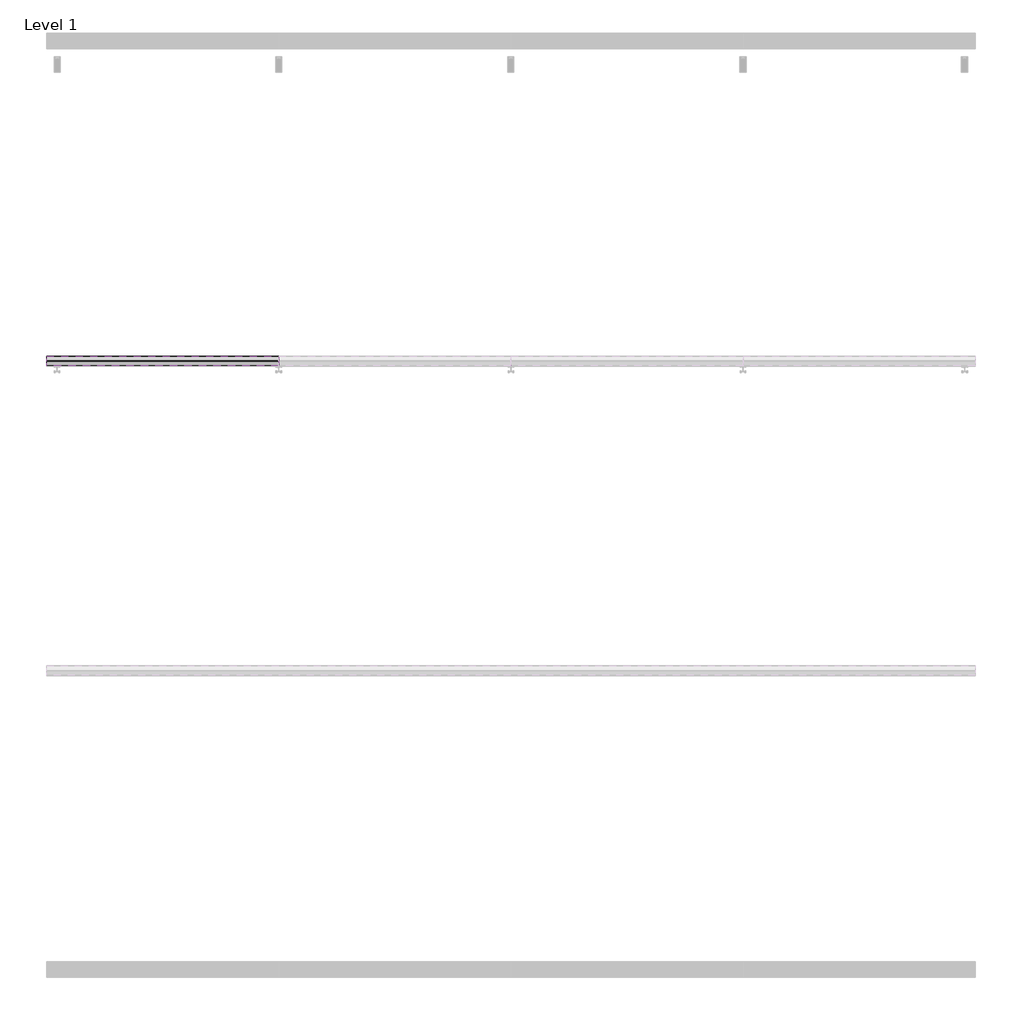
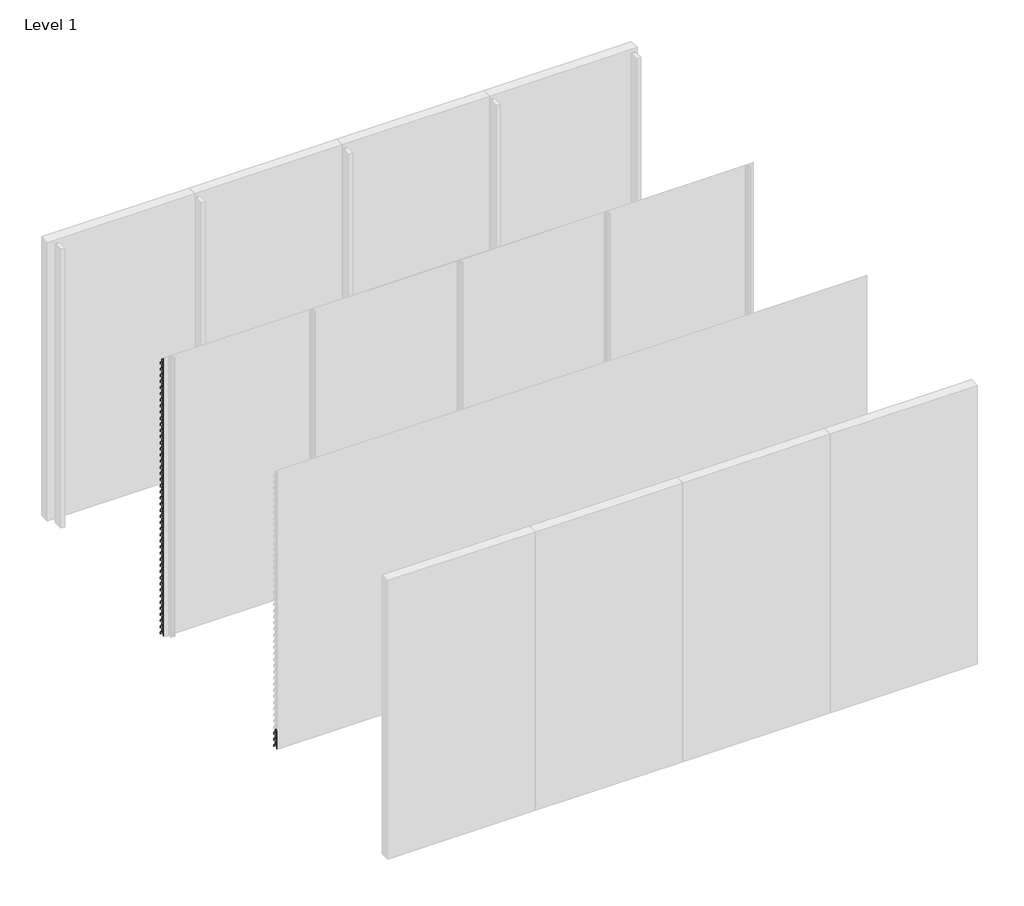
# One storey, part 10 of 35: 69 proxies.
"""IFC4 building model written with IfcOpenShell, lengths in millimetres."""

from ifc_helpers import new_model, si_unit, frame, origin, place, context, project, spatial, polyline, outline, extrude, element, save

model = new_model("IFC4")

# Units and contexts
model_context = context("Model", 3, world=origin())
ifc_project = project(units=[si_unit("LENGTHUNIT", "METRE", prefix="MILLI")], contexts=[model_context])

# Site, building, storey
site = spatial("IfcSite", under=ifc_project)
building = spatial("IfcBuilding", under=site)
storey = spatial("IfcBuildingStorey", under=building, Name="Level 1", Elevation=0.0)

# Proxies
placement = place(None, origin())
element("IfcBuildingElementProxy", 1, Name="Wall Sweeps", at=placement, inside=storey, context=model_context, shape_type="SweptSolid", body=[
    extrude(outline(polyline([(-41936.0, 2916.0), (-41936.0, 2896.0), (-41937.25, 2896.0), (-41937.25, 2915.4342979), (-41968.1138939, 2948.531772), (-41996.7, 2928.4392868), (-41996.7, 2909.6629874), (-41998.0, 2908.8506572), (-41998.0, 2929.1145472), (-41968.537525, 2949.823011), (-41968.537525, 2970.0), (-41967.1772624, 2970.0), (-41967.1772624, 2949.4335207), (-41936.0, 2916.0)])), frame((0.0, 0.0, 0.0), z_axis=(1.0, 0.0, 0.0), x_axis=(0.0, 1.0, 0.0)), (0.0, 0.0, 1.0), 1500.0),
])
element("IfcBuildingElementProxy", 2, Name="Wall Sweeps", at=placement, inside=storey, context=model_context, shape_type="SweptSolid", body=[
    extrude(outline(polyline([(-41936.0, 2850.0), (-41936.0, 2830.0), (-41937.25, 2830.0), (-41937.25, 2849.4342979), (-41968.1138939, 2882.531772), (-41996.7, 2862.4392868), (-41996.7, 2843.6629874), (-41998.0, 2842.8506572), (-41998.0, 2863.1145472), (-41968.537525, 2883.823011), (-41968.537525, 2904.0), (-41967.1772624, 2904.0), (-41967.1772624, 2883.4335207), (-41936.0, 2850.0)])), frame((0.0, 0.0, 0.0), z_axis=(1.0, 0.0, 0.0), x_axis=(0.0, 1.0, 0.0)), (0.0, 0.0, 1.0), 1500.0),
])
element("IfcBuildingElementProxy", 3, Name="Wall Sweeps", at=placement, inside=storey, context=model_context, shape_type="SweptSolid", body=[
    extrude(outline(polyline([(-41936.0, 2784.0), (-41936.0, 2764.0), (-41937.25, 2764.0), (-41937.25, 2783.4342979), (-41968.1138939, 2816.531772), (-41996.7, 2796.4392868), (-41996.7, 2777.6629874), (-41998.0, 2776.8506572), (-41998.0, 2797.1145472), (-41968.537525, 2817.823011), (-41968.537525, 2838.0), (-41967.1772624, 2838.0), (-41967.1772624, 2817.4335207), (-41936.0, 2784.0)])), frame((0.0, 0.0, 0.0), z_axis=(1.0, 0.0, 0.0), x_axis=(0.0, 1.0, 0.0)), (0.0, 0.0, 1.0), 1500.0),
])
element("IfcBuildingElementProxy", 4, Name="Wall Sweeps", at=placement, inside=storey, context=model_context, shape_type="SweptSolid", body=[
    extrude(outline(polyline([(-41936.0, 2718.0), (-41936.0, 2698.0), (-41937.25, 2698.0), (-41937.25, 2717.4342979), (-41968.1138939, 2750.531772), (-41996.7, 2730.4392868), (-41996.7, 2711.6629874), (-41998.0, 2710.8506572), (-41998.0, 2731.1145472), (-41968.537525, 2751.823011), (-41968.537525, 2772.0), (-41967.1772624, 2772.0), (-41967.1772624, 2751.4335207), (-41936.0, 2718.0)])), frame((0.0, 0.0, 0.0), z_axis=(1.0, 0.0, 0.0), x_axis=(0.0, 1.0, 0.0)), (0.0, 0.0, 1.0), 1500.0),
])
element("IfcBuildingElementProxy", 5, Name="Wall Sweeps", at=placement, inside=storey, context=model_context, shape_type="SweptSolid", body=[
    extrude(outline(polyline([(-41936.0, 2652.0), (-41936.0, 2632.0), (-41937.25, 2632.0), (-41937.25, 2651.4342979), (-41968.1138939, 2684.531772), (-41996.7, 2664.4392868), (-41996.7, 2645.6629874), (-41998.0, 2644.8506572), (-41998.0, 2665.1145472), (-41968.537525, 2685.823011), (-41968.537525, 2706.0), (-41967.1772624, 2706.0), (-41967.1772624, 2685.4335207), (-41936.0, 2652.0)])), frame((0.0, 0.0, 0.0), z_axis=(1.0, 0.0, 0.0), x_axis=(0.0, 1.0, 0.0)), (0.0, 0.0, 1.0), 1500.0),
])
element("IfcBuildingElementProxy", 6, Name="Wall Sweeps", at=placement, inside=storey, context=model_context, shape_type="SweptSolid", body=[
    extrude(outline(polyline([(-41936.0, 2586.0), (-41936.0, 2566.0), (-41937.25, 2566.0), (-41937.25, 2585.4342979), (-41968.1138939, 2618.531772), (-41996.7, 2598.4392868), (-41996.7, 2579.6629874), (-41998.0, 2578.8506572), (-41998.0, 2599.1145472), (-41968.537525, 2619.823011), (-41968.537525, 2640.0), (-41967.1772624, 2640.0), (-41967.1772624, 2619.4335207), (-41936.0, 2586.0)])), frame((0.0, 0.0, 0.0), z_axis=(1.0, 0.0, 0.0), x_axis=(0.0, 1.0, 0.0)), (0.0, 0.0, 1.0), 1500.0),
])
element("IfcBuildingElementProxy", 7, Name="Wall Sweeps", at=placement, inside=storey, context=model_context, shape_type="SweptSolid", body=[
    extrude(outline(polyline([(-41936.0, 2520.0), (-41936.0, 2500.0), (-41937.25, 2500.0), (-41937.25, 2519.4342979), (-41968.1138939, 2552.531772), (-41996.7, 2532.4392868), (-41996.7, 2513.6629874), (-41998.0, 2512.8506572), (-41998.0, 2533.1145472), (-41968.537525, 2553.823011), (-41968.537525, 2574.0), (-41967.1772624, 2574.0), (-41967.1772624, 2553.4335207), (-41936.0, 2520.0)])), frame((0.0, 0.0, 0.0), z_axis=(1.0, 0.0, 0.0), x_axis=(0.0, 1.0, 0.0)), (0.0, 0.0, 1.0), 1500.0),
])
element("IfcBuildingElementProxy", 8, Name="Wall Sweeps", at=placement, inside=storey, context=model_context, shape_type="SweptSolid", body=[
    extrude(outline(polyline([(-41936.0, 2454.0), (-41936.0, 2434.0), (-41937.25, 2434.0), (-41937.25, 2453.4342979), (-41968.1138939, 2486.531772), (-41996.7, 2466.4392868), (-41996.7, 2447.6629874), (-41998.0, 2446.8506572), (-41998.0, 2467.1145472), (-41968.537525, 2487.823011), (-41968.537525, 2508.0), (-41967.1772624, 2508.0), (-41967.1772624, 2487.4335207), (-41936.0, 2454.0)])), frame((0.0, 0.0, 0.0), z_axis=(1.0, 0.0, 0.0), x_axis=(0.0, 1.0, 0.0)), (0.0, 0.0, 1.0), 1500.0),
])
element("IfcBuildingElementProxy", 9, Name="Wall Sweeps", at=placement, inside=storey, context=model_context, shape_type="SweptSolid", body=[
    extrude(outline(polyline([(-41936.0, 2388.0), (-41936.0, 2368.0), (-41937.25, 2368.0), (-41937.25, 2387.4342979), (-41968.1138939, 2420.531772), (-41996.7, 2400.4392868), (-41996.7, 2381.6629874), (-41998.0, 2380.8506572), (-41998.0, 2401.1145472), (-41968.537525, 2421.823011), (-41968.537525, 2442.0), (-41967.1772624, 2442.0), (-41967.1772624, 2421.4335207), (-41936.0, 2388.0)])), frame((0.0, 0.0, 0.0), z_axis=(1.0, 0.0, 0.0), x_axis=(0.0, 1.0, 0.0)), (0.0, 0.0, 1.0), 1500.0),
])
element("IfcBuildingElementProxy", 10, Name="Wall Sweeps", at=placement, inside=storey, context=model_context, shape_type="SweptSolid", body=[
    extrude(outline(polyline([(-41936.0, 2322.0), (-41936.0, 2302.0), (-41937.25, 2302.0), (-41937.25, 2321.4342979), (-41968.1138939, 2354.531772), (-41996.7, 2334.4392868), (-41996.7, 2315.6629874), (-41998.0, 2314.8506572), (-41998.0, 2335.1145472), (-41968.537525, 2355.823011), (-41968.537525, 2376.0), (-41967.1772624, 2376.0), (-41967.1772624, 2355.4335207), (-41936.0, 2322.0)])), frame((0.0, 0.0, 0.0), z_axis=(1.0, 0.0, 0.0), x_axis=(0.0, 1.0, 0.0)), (0.0, 0.0, 1.0), 1500.0),
])
element("IfcBuildingElementProxy", 11, Name="Wall Sweeps", at=placement, inside=storey, context=model_context, shape_type="SweptSolid", body=[
    extrude(outline(polyline([(-41936.0, 2256.0), (-41936.0, 2236.0), (-41937.25, 2236.0), (-41937.25, 2255.4342979), (-41968.1138939, 2288.531772), (-41996.7, 2268.4392868), (-41996.7, 2249.6629874), (-41998.0, 2248.8506572), (-41998.0, 2269.1145472), (-41968.537525, 2289.823011), (-41968.537525, 2310.0), (-41967.1772624, 2310.0), (-41967.1772624, 2289.4335207), (-41936.0, 2256.0)])), frame((0.0, 0.0, 0.0), z_axis=(1.0, 0.0, 0.0), x_axis=(0.0, 1.0, 0.0)), (0.0, 0.0, 1.0), 1500.0),
])
element("IfcBuildingElementProxy", 12, Name="Wall Sweeps", at=placement, inside=storey, context=model_context, shape_type="SweptSolid", body=[
    extrude(outline(polyline([(-41936.0, 2190.0), (-41936.0, 2170.0), (-41937.25, 2170.0), (-41937.25, 2189.4342979), (-41968.1138939, 2222.531772), (-41996.7, 2202.4392868), (-41996.7, 2183.6629874), (-41998.0, 2182.8506572), (-41998.0, 2203.1145472), (-41968.537525, 2223.823011), (-41968.537525, 2244.0), (-41967.1772624, 2244.0), (-41967.1772624, 2223.4335207), (-41936.0, 2190.0)])), frame((0.0, 0.0, 0.0), z_axis=(1.0, 0.0, 0.0), x_axis=(0.0, 1.0, 0.0)), (0.0, 0.0, 1.0), 1500.0),
])
element("IfcBuildingElementProxy", 13, Name="Wall Sweeps", at=placement, inside=storey, context=model_context, shape_type="SweptSolid", body=[
    extrude(outline(polyline([(-41936.0, 2124.0), (-41936.0, 2104.0), (-41937.25, 2104.0), (-41937.25, 2123.4342979), (-41968.1138939, 2156.531772), (-41996.7, 2136.4392868), (-41996.7, 2117.6629874), (-41998.0, 2116.8506572), (-41998.0, 2137.1145472), (-41968.537525, 2157.823011), (-41968.537525, 2178.0), (-41967.1772624, 2178.0), (-41967.1772624, 2157.4335207), (-41936.0, 2124.0)])), frame((0.0, 0.0, 0.0), z_axis=(1.0, 0.0, 0.0), x_axis=(0.0, 1.0, 0.0)), (0.0, 0.0, 1.0), 1500.0),
])
element("IfcBuildingElementProxy", 14, Name="Wall Sweeps", at=placement, inside=storey, context=model_context, shape_type="SweptSolid", body=[
    extrude(outline(polyline([(-41936.0, 2058.0), (-41936.0, 2038.0), (-41937.25, 2038.0), (-41937.25, 2057.4342979), (-41968.1138939, 2090.531772), (-41996.7, 2070.4392868), (-41996.7, 2051.6629874), (-41998.0, 2050.8506572), (-41998.0, 2071.1145472), (-41968.537525, 2091.823011), (-41968.537525, 2112.0), (-41967.1772624, 2112.0), (-41967.1772624, 2091.4335207), (-41936.0, 2058.0)])), frame((0.0, 0.0, 0.0), z_axis=(1.0, 0.0, 0.0), x_axis=(0.0, 1.0, 0.0)), (0.0, 0.0, 1.0), 1500.0),
])
element("IfcBuildingElementProxy", 15, Name="Wall Sweeps", at=placement, inside=storey, context=model_context, shape_type="SweptSolid", body=[
    extrude(outline(polyline([(-41936.0, 1992.0), (-41936.0, 1972.0), (-41937.25, 1972.0), (-41937.25, 1991.4342979), (-41968.1138939, 2024.531772), (-41996.7, 2004.4392868), (-41996.7, 1985.6629874), (-41998.0, 1984.8506572), (-41998.0, 2005.1145472), (-41968.537525, 2025.823011), (-41968.537525, 2046.0), (-41967.1772624, 2046.0), (-41967.1772624, 2025.4335207), (-41936.0, 1992.0)])), frame((0.0, 0.0, 0.0), z_axis=(1.0, 0.0, 0.0), x_axis=(0.0, 1.0, 0.0)), (0.0, 0.0, 1.0), 1500.0),
])
element("IfcBuildingElementProxy", 16, Name="Wall Sweeps", at=placement, inside=storey, context=model_context, shape_type="SweptSolid", body=[
    extrude(outline(polyline([(-41936.0, 1926.0), (-41936.0, 1906.0), (-41937.25, 1906.0), (-41937.25, 1925.4342979), (-41968.1138939, 1958.531772), (-41996.7, 1938.4392868), (-41996.7, 1919.6629874), (-41998.0, 1918.8506572), (-41998.0, 1939.1145472), (-41968.537525, 1959.823011), (-41968.537525, 1980.0), (-41967.1772624, 1980.0), (-41967.1772624, 1959.4335207), (-41936.0, 1926.0)])), frame((0.0, 0.0, 0.0), z_axis=(1.0, 0.0, 0.0), x_axis=(0.0, 1.0, 0.0)), (0.0, 0.0, 1.0), 1500.0),
])
element("IfcBuildingElementProxy", 17, Name="Wall Sweeps", at=placement, inside=storey, context=model_context, shape_type="SweptSolid", body=[
    extrude(outline(polyline([(-41936.0, 1860.0), (-41936.0, 1840.0), (-41937.25, 1840.0), (-41937.25, 1859.4342979), (-41968.1138939, 1892.531772), (-41996.7, 1872.4392868), (-41996.7, 1853.6629874), (-41998.0, 1852.8506572), (-41998.0, 1873.1145472), (-41968.537525, 1893.823011), (-41968.537525, 1914.0), (-41967.1772624, 1914.0), (-41967.1772624, 1893.4335207), (-41936.0, 1860.0)])), frame((0.0, 0.0, 0.0), z_axis=(1.0, 0.0, 0.0), x_axis=(0.0, 1.0, 0.0)), (0.0, 0.0, 1.0), 1500.0),
])
element("IfcBuildingElementProxy", 18, Name="Wall Sweeps", at=placement, inside=storey, context=model_context, shape_type="SweptSolid", body=[
    extrude(outline(polyline([(-41936.0, 1794.0), (-41936.0, 1774.0), (-41937.25, 1774.0), (-41937.25, 1793.4342979), (-41968.1138939, 1826.531772), (-41996.7, 1806.4392868), (-41996.7, 1787.6629874), (-41998.0, 1786.8506572), (-41998.0, 1807.1145472), (-41968.537525, 1827.823011), (-41968.537525, 1848.0), (-41967.1772624, 1848.0), (-41967.1772624, 1827.4335207), (-41936.0, 1794.0)])), frame((0.0, 0.0, 0.0), z_axis=(1.0, 0.0, 0.0), x_axis=(0.0, 1.0, 0.0)), (0.0, 0.0, 1.0), 1500.0),
])
element("IfcBuildingElementProxy", 19, Name="Wall Sweeps", at=placement, inside=storey, context=model_context, shape_type="SweptSolid", body=[
    extrude(outline(polyline([(-41936.0, 1728.0), (-41936.0, 1708.0), (-41937.25, 1708.0), (-41937.25, 1727.4342979), (-41968.1138939, 1760.531772), (-41996.7, 1740.4392868), (-41996.7, 1721.6629874), (-41998.0, 1720.8506572), (-41998.0, 1741.1145472), (-41968.537525, 1761.823011), (-41968.537525, 1782.0), (-41967.1772624, 1782.0), (-41967.1772624, 1761.4335207), (-41936.0, 1728.0)])), frame((0.0, 0.0, 0.0), z_axis=(1.0, 0.0, 0.0), x_axis=(0.0, 1.0, 0.0)), (0.0, 0.0, 1.0), 1500.0),
])
element("IfcBuildingElementProxy", 20, Name="Wall Sweeps", at=placement, inside=storey, context=model_context, shape_type="SweptSolid", body=[
    extrude(outline(polyline([(-41936.0, 1662.0), (-41936.0, 1642.0), (-41937.25, 1642.0), (-41937.25, 1661.4342979), (-41968.1138939, 1694.531772), (-41996.7, 1674.4392868), (-41996.7, 1655.6629874), (-41998.0, 1654.8506572), (-41998.0, 1675.1145472), (-41968.537525, 1695.823011), (-41968.537525, 1716.0), (-41967.1772624, 1716.0), (-41967.1772624, 1695.4335207), (-41936.0, 1662.0)])), frame((0.0, 0.0, 0.0), z_axis=(1.0, 0.0, 0.0), x_axis=(0.0, 1.0, 0.0)), (0.0, 0.0, 1.0), 1500.0),
])
element("IfcBuildingElementProxy", 21, Name="Wall Sweeps", at=placement, inside=storey, context=model_context, shape_type="SweptSolid", body=[
    extrude(outline(polyline([(-41936.0, 1596.0), (-41936.0, 1576.0), (-41937.25, 1576.0), (-41937.25, 1595.4342979), (-41968.1138939, 1628.531772), (-41996.7, 1608.4392868), (-41996.7, 1589.6629874), (-41998.0, 1588.8506572), (-41998.0, 1609.1145472), (-41968.537525, 1629.823011), (-41968.537525, 1650.0), (-41967.1772624, 1650.0), (-41967.1772624, 1629.4335207), (-41936.0, 1596.0)])), frame((0.0, 0.0, 0.0), z_axis=(1.0, 0.0, 0.0), x_axis=(0.0, 1.0, 0.0)), (0.0, 0.0, 1.0), 1500.0),
])
element("IfcBuildingElementProxy", 22, Name="Wall Sweeps", at=placement, inside=storey, context=model_context, shape_type="SweptSolid", body=[
    extrude(outline(polyline([(-41936.0, 1530.0), (-41936.0, 1510.0), (-41937.25, 1510.0), (-41937.25, 1529.4342979), (-41968.1138939, 1562.531772), (-41996.7, 1542.4392868), (-41996.7, 1523.6629874), (-41998.0, 1522.8506572), (-41998.0, 1543.1145472), (-41968.537525, 1563.823011), (-41968.537525, 1584.0), (-41967.1772624, 1584.0), (-41967.1772624, 1563.4335207), (-41936.0, 1530.0)])), frame((0.0, 0.0, 0.0), z_axis=(1.0, 0.0, 0.0), x_axis=(0.0, 1.0, 0.0)), (0.0, 0.0, 1.0), 1500.0),
])
element("IfcBuildingElementProxy", 23, Name="Wall Sweeps", at=placement, inside=storey, context=model_context, shape_type="SweptSolid", body=[
    extrude(outline(polyline([(-41936.0, 1464.0), (-41936.0, 1444.0), (-41937.25, 1444.0), (-41937.25, 1463.4342979), (-41968.1138939, 1496.531772), (-41996.7, 1476.4392868), (-41996.7, 1457.6629874), (-41998.0, 1456.8506572), (-41998.0, 1477.1145472), (-41968.537525, 1497.823011), (-41968.537525, 1518.0), (-41967.1772624, 1518.0), (-41967.1772624, 1497.4335207), (-41936.0, 1464.0)])), frame((0.0, 0.0, 0.0), z_axis=(1.0, 0.0, 0.0), x_axis=(0.0, 1.0, 0.0)), (0.0, 0.0, 1.0), 1500.0),
])
element("IfcBuildingElementProxy", 24, Name="Wall Sweeps", at=placement, inside=storey, context=model_context, shape_type="SweptSolid", body=[
    extrude(outline(polyline([(-41936.0, 1398.0), (-41936.0, 1378.0), (-41937.25, 1378.0), (-41937.25, 1397.4342979), (-41968.1138939, 1430.531772), (-41996.7, 1410.4392868), (-41996.7, 1391.6629874), (-41998.0, 1390.8506572), (-41998.0, 1411.1145472), (-41968.537525, 1431.823011), (-41968.537525, 1452.0), (-41967.1772624, 1452.0), (-41967.1772624, 1431.4335207), (-41936.0, 1398.0)])), frame((0.0, 0.0, 0.0), z_axis=(1.0, 0.0, 0.0), x_axis=(0.0, 1.0, 0.0)), (0.0, 0.0, 1.0), 1500.0),
])
element("IfcBuildingElementProxy", 25, Name="Wall Sweeps", at=placement, inside=storey, context=model_context, shape_type="SweptSolid", body=[
    extrude(outline(polyline([(-41936.0, 1332.0), (-41936.0, 1312.0), (-41937.25, 1312.0), (-41937.25, 1331.4342979), (-41968.1138939, 1364.531772), (-41996.7, 1344.4392868), (-41996.7, 1325.6629874), (-41998.0, 1324.8506572), (-41998.0, 1345.1145472), (-41968.537525, 1365.823011), (-41968.537525, 1386.0), (-41967.1772624, 1386.0), (-41967.1772624, 1365.4335207), (-41936.0, 1332.0)])), frame((0.0, 0.0, 0.0), z_axis=(1.0, 0.0, 0.0), x_axis=(0.0, 1.0, 0.0)), (0.0, 0.0, 1.0), 1500.0),
])
element("IfcBuildingElementProxy", 26, Name="Wall Sweeps", at=placement, inside=storey, context=model_context, shape_type="SweptSolid", body=[
    extrude(outline(polyline([(-41936.0, 1266.0), (-41936.0, 1246.0), (-41937.25, 1246.0), (-41937.25, 1265.4342979), (-41968.1138939, 1298.531772), (-41996.7, 1278.4392868), (-41996.7, 1259.6629874), (-41998.0, 1258.8506572), (-41998.0, 1279.1145472), (-41968.537525, 1299.823011), (-41968.537525, 1320.0), (-41967.1772624, 1320.0), (-41967.1772624, 1299.4335207), (-41936.0, 1266.0)])), frame((0.0, 0.0, 0.0), z_axis=(1.0, 0.0, 0.0), x_axis=(0.0, 1.0, 0.0)), (0.0, 0.0, 1.0), 1500.0),
])
element("IfcBuildingElementProxy", 27, Name="Wall Sweeps", at=placement, inside=storey, context=model_context, shape_type="SweptSolid", body=[
    extrude(outline(polyline([(-41936.0, 1200.0), (-41936.0, 1180.0), (-41937.25, 1180.0), (-41937.25, 1199.4342979), (-41968.1138939, 1232.531772), (-41996.7, 1212.4392868), (-41996.7, 1193.6629874), (-41998.0, 1192.8506572), (-41998.0, 1213.1145472), (-41968.537525, 1233.823011), (-41968.537525, 1254.0), (-41967.1772624, 1254.0), (-41967.1772624, 1233.4335207), (-41936.0, 1200.0)])), frame((0.0, 0.0, 0.0), z_axis=(1.0, 0.0, 0.0), x_axis=(0.0, 1.0, 0.0)), (0.0, 0.0, 1.0), 1500.0),
])
element("IfcBuildingElementProxy", 28, Name="Wall Sweeps", at=placement, inside=storey, context=model_context, shape_type="SweptSolid", body=[
    extrude(outline(polyline([(-41936.0, 1134.0), (-41936.0, 1114.0), (-41937.25, 1114.0), (-41937.25, 1133.4342979), (-41968.1138939, 1166.531772), (-41996.7, 1146.4392868), (-41996.7, 1127.6629874), (-41998.0, 1126.8506572), (-41998.0, 1147.1145472), (-41968.537525, 1167.823011), (-41968.537525, 1188.0), (-41967.1772624, 1188.0), (-41967.1772624, 1167.4335207), (-41936.0, 1134.0)])), frame((0.0, 0.0, 0.0), z_axis=(1.0, 0.0, 0.0), x_axis=(0.0, 1.0, 0.0)), (0.0, 0.0, 1.0), 1500.0),
])
element("IfcBuildingElementProxy", 29, Name="Wall Sweeps", at=placement, inside=storey, context=model_context, shape_type="SweptSolid", body=[
    extrude(outline(polyline([(-41936.0, 1068.0), (-41936.0, 1048.0), (-41937.25, 1048.0), (-41937.25, 1067.4342979), (-41968.1138939, 1100.531772), (-41996.7, 1080.4392868), (-41996.7, 1061.6629874), (-41998.0, 1060.8506572), (-41998.0, 1081.1145472), (-41968.537525, 1101.823011), (-41968.537525, 1122.0), (-41967.1772624, 1122.0), (-41967.1772624, 1101.4335207), (-41936.0, 1068.0)])), frame((0.0, 0.0, 0.0), z_axis=(1.0, 0.0, 0.0), x_axis=(0.0, 1.0, 0.0)), (0.0, 0.0, 1.0), 1500.0),
])
element("IfcBuildingElementProxy", 30, Name="Wall Sweeps", at=placement, inside=storey, context=model_context, shape_type="SweptSolid", body=[
    extrude(outline(polyline([(-41936.0, 1002.0), (-41936.0, 982.0), (-41937.25, 982.0), (-41937.25, 1001.4342979), (-41968.1138939, 1034.531772), (-41996.7, 1014.4392868), (-41996.7, 995.6629874), (-41998.0, 994.8506572), (-41998.0, 1015.1145472), (-41968.537525, 1035.823011), (-41968.537525, 1056.0), (-41967.1772624, 1056.0), (-41967.1772624, 1035.4335207), (-41936.0, 1002.0)])), frame((0.0, 0.0, 0.0), z_axis=(1.0, 0.0, 0.0), x_axis=(0.0, 1.0, 0.0)), (0.0, 0.0, 1.0), 1500.0),
])
element("IfcBuildingElementProxy", 31, Name="Wall Sweeps", at=placement, inside=storey, context=model_context, shape_type="SweptSolid", body=[
    extrude(outline(polyline([(-41936.0, 936.0), (-41936.0, 916.0), (-41937.25, 916.0), (-41937.25, 935.4342979), (-41968.1138939, 968.531772), (-41996.7, 948.4392868), (-41996.7, 929.6629874), (-41998.0, 928.8506572), (-41998.0, 949.1145472), (-41968.537525, 969.823011), (-41968.537525, 990.0), (-41967.1772624, 990.0), (-41967.1772624, 969.4335207), (-41936.0, 936.0)])), frame((0.0, 0.0, 0.0), z_axis=(1.0, 0.0, 0.0), x_axis=(0.0, 1.0, 0.0)), (0.0, 0.0, 1.0), 1500.0),
])
element("IfcBuildingElementProxy", 32, Name="Wall Sweeps", at=placement, inside=storey, context=model_context, shape_type="SweptSolid", body=[
    extrude(outline(polyline([(-41936.0, 870.0), (-41936.0, 850.0), (-41937.25, 850.0), (-41937.25, 869.4342979), (-41968.1138939, 902.531772), (-41996.7, 882.4392868), (-41996.7, 863.6629874), (-41998.0, 862.8506572), (-41998.0, 883.1145472), (-41968.537525, 903.823011), (-41968.537525, 924.0), (-41967.1772624, 924.0), (-41967.1772624, 903.4335207), (-41936.0, 870.0)])), frame((0.0, 0.0, 0.0), z_axis=(1.0, 0.0, 0.0), x_axis=(0.0, 1.0, 0.0)), (0.0, 0.0, 1.0), 1500.0),
])
element("IfcBuildingElementProxy", 33, Name="Wall Sweeps", at=placement, inside=storey, context=model_context, shape_type="SweptSolid", body=[
    extrude(outline(polyline([(-41936.0, 804.0), (-41936.0, 784.0), (-41937.25, 784.0), (-41937.25, 803.4342979), (-41968.1138939, 836.531772), (-41996.7, 816.4392868), (-41996.7, 797.6629874), (-41998.0, 796.8506572), (-41998.0, 817.1145472), (-41968.537525, 837.823011), (-41968.537525, 858.0), (-41967.1772624, 858.0), (-41967.1772624, 837.4335207), (-41936.0, 804.0)])), frame((0.0, 0.0, 0.0), z_axis=(1.0, 0.0, 0.0), x_axis=(0.0, 1.0, 0.0)), (0.0, 0.0, 1.0), 1500.0),
])
element("IfcBuildingElementProxy", 34, Name="Wall Sweeps", at=placement, inside=storey, context=model_context, shape_type="SweptSolid", body=[
    extrude(outline(polyline([(-41936.0, 738.0), (-41936.0, 718.0), (-41937.25, 718.0), (-41937.25, 737.4342979), (-41968.1138939, 770.531772), (-41996.7, 750.4392868), (-41996.7, 731.6629874), (-41998.0, 730.8506572), (-41998.0, 751.1145472), (-41968.537525, 771.823011), (-41968.537525, 792.0), (-41967.1772624, 792.0), (-41967.1772624, 771.4335207), (-41936.0, 738.0)])), frame((0.0, 0.0, 0.0), z_axis=(1.0, 0.0, 0.0), x_axis=(0.0, 1.0, 0.0)), (0.0, 0.0, 1.0), 1500.0),
])
element("IfcBuildingElementProxy", 35, Name="Wall Sweeps", at=placement, inside=storey, context=model_context, shape_type="SweptSolid", body=[
    extrude(outline(polyline([(-41936.0, 672.0), (-41936.0, 652.0), (-41937.25, 652.0), (-41937.25, 671.4342979), (-41968.1138939, 704.531772), (-41996.7, 684.4392868), (-41996.7, 665.6629874), (-41998.0, 664.8506572), (-41998.0, 685.1145472), (-41968.537525, 705.823011), (-41968.537525, 726.0), (-41967.1772624, 726.0), (-41967.1772624, 705.4335207), (-41936.0, 672.0)])), frame((0.0, 0.0, 0.0), z_axis=(1.0, 0.0, 0.0), x_axis=(0.0, 1.0, 0.0)), (0.0, 0.0, 1.0), 1500.0),
])
element("IfcBuildingElementProxy", 36, Name="Wall Sweeps", at=placement, inside=storey, context=model_context, shape_type="SweptSolid", body=[
    extrude(outline(polyline([(-41936.0, 606.0), (-41936.0, 586.0), (-41937.25, 586.0), (-41937.25, 605.4342979), (-41968.1138939, 638.531772), (-41996.7, 618.4392868), (-41996.7, 599.6629874), (-41998.0, 598.8506572), (-41998.0, 619.1145472), (-41968.537525, 639.823011), (-41968.537525, 660.0), (-41967.1772624, 660.0), (-41967.1772624, 639.4335207), (-41936.0, 606.0)])), frame((0.0, 0.0, 0.0), z_axis=(1.0, 0.0, 0.0), x_axis=(0.0, 1.0, 0.0)), (0.0, 0.0, 1.0), 1500.0),
])
element("IfcBuildingElementProxy", 37, Name="Wall Sweeps", at=placement, inside=storey, context=model_context, shape_type="SweptSolid", body=[
    extrude(outline(polyline([(-41936.0, 540.0), (-41936.0, 520.0), (-41937.25, 520.0), (-41937.25, 539.4342979), (-41968.1138939, 572.531772), (-41996.7, 552.4392868), (-41996.7, 533.6629874), (-41998.0, 532.8506572), (-41998.0, 553.1145472), (-41968.537525, 573.823011), (-41968.537525, 594.0), (-41967.1772624, 594.0), (-41967.1772624, 573.4335207), (-41936.0, 540.0)])), frame((0.0, 0.0, 0.0), z_axis=(1.0, 0.0, 0.0), x_axis=(0.0, 1.0, 0.0)), (0.0, 0.0, 1.0), 1500.0),
])
element("IfcBuildingElementProxy", 38, Name="Wall Sweeps", at=placement, inside=storey, context=model_context, shape_type="SweptSolid", body=[
    extrude(outline(polyline([(-41936.0, 474.0), (-41936.0, 454.0), (-41937.25, 454.0), (-41937.25, 473.4342979), (-41968.1138939, 506.531772), (-41996.7, 486.4392868), (-41996.7, 467.6629874), (-41998.0, 466.8506572), (-41998.0, 487.1145472), (-41968.537525, 507.823011), (-41968.537525, 528.0), (-41967.1772624, 528.0), (-41967.1772624, 507.4335207), (-41936.0, 474.0)])), frame((0.0, 0.0, 0.0), z_axis=(1.0, 0.0, 0.0), x_axis=(0.0, 1.0, 0.0)), (0.0, 0.0, 1.0), 1500.0),
])
element("IfcBuildingElementProxy", 39, Name="Wall Sweeps", at=placement, inside=storey, context=model_context, shape_type="SweptSolid", body=[
    extrude(outline(polyline([(-41936.0, 408.0), (-41936.0, 388.0), (-41937.25, 388.0), (-41937.25, 407.4342979), (-41968.1138939, 440.531772), (-41996.7, 420.4392868), (-41996.7, 401.6629874), (-41998.0, 400.8506572), (-41998.0, 421.1145472), (-41968.537525, 441.823011), (-41968.537525, 462.0), (-41967.1772624, 462.0), (-41967.1772624, 441.4335207), (-41936.0, 408.0)])), frame((0.0, 0.0, 0.0), z_axis=(1.0, 0.0, 0.0), x_axis=(0.0, 1.0, 0.0)), (0.0, 0.0, 1.0), 1500.0),
])
element("IfcBuildingElementProxy", 40, Name="Wall Sweeps", at=placement, inside=storey, context=model_context, shape_type="SweptSolid", body=[
    extrude(outline(polyline([(-41936.0, 342.0), (-41936.0, 322.0), (-41937.25, 322.0), (-41937.25, 341.4342979), (-41968.1138939, 374.531772), (-41996.7, 354.4392868), (-41996.7, 335.6629874), (-41998.0, 334.8506572), (-41998.0, 355.1145472), (-41968.537525, 375.823011), (-41968.537525, 396.0), (-41967.1772624, 396.0), (-41967.1772624, 375.4335207), (-41936.0, 342.0)])), frame((0.0, 0.0, 0.0), z_axis=(1.0, 0.0, 0.0), x_axis=(0.0, 1.0, 0.0)), (0.0, 0.0, 1.0), 1500.0),
])
element("IfcBuildingElementProxy", 41, Name="Wall Sweeps", at=placement, inside=storey, context=model_context, shape_type="SweptSolid", body=[
    extrude(outline(polyline([(-41936.0, 276.0), (-41936.0, 256.0), (-41937.25, 256.0), (-41937.25, 275.4342979), (-41968.1138939, 308.531772), (-41996.7, 288.4392868), (-41996.7, 269.6629874), (-41998.0, 268.8506572), (-41998.0, 289.1145472), (-41968.537525, 309.823011), (-41968.537525, 330.0), (-41967.1772624, 330.0), (-41967.1772624, 309.4335207), (-41936.0, 276.0)])), frame((0.0, 0.0, 0.0), z_axis=(1.0, 0.0, 0.0), x_axis=(0.0, 1.0, 0.0)), (0.0, 0.0, 1.0), 1500.0),
])
element("IfcBuildingElementProxy", 42, Name="Wall Sweeps", at=placement, inside=storey, context=model_context, shape_type="SweptSolid", body=[
    extrude(outline(polyline([(-41936.0, 210.0), (-41936.0, 190.0), (-41937.25, 190.0), (-41937.25, 209.4342979), (-41968.1138939, 242.531772), (-41996.7, 222.4392868), (-41996.7, 203.6629874), (-41998.0, 202.8506572), (-41998.0, 223.1145472), (-41968.537525, 243.823011), (-41968.537525, 264.0), (-41967.1772624, 264.0), (-41967.1772624, 243.4335207), (-41936.0, 210.0)])), frame((0.0, 0.0, 0.0), z_axis=(1.0, 0.0, 0.0), x_axis=(0.0, 1.0, 0.0)), (0.0, 0.0, 1.0), 1500.0),
])
element("IfcBuildingElementProxy", 43, Name="Wall Sweeps", at=placement, inside=storey, context=model_context, shape_type="SweptSolid", body=[
    extrude(outline(polyline([(-41936.0, 144.0), (-41936.0, 124.0), (-41937.25, 124.0), (-41937.25, 143.4342979), (-41968.1138939, 176.531772), (-41996.7, 156.4392868), (-41996.7, 137.6629874), (-41998.0, 136.8506572), (-41998.0, 157.1145472), (-41968.537525, 177.823011), (-41968.537525, 198.0), (-41967.1772624, 198.0), (-41967.1772624, 177.4335207), (-41936.0, 144.0)])), frame((0.0, 0.0, 0.0), z_axis=(1.0, 0.0, 0.0), x_axis=(0.0, 1.0, 0.0)), (0.0, 0.0, 1.0), 1500.0),
])
element("IfcBuildingElementProxy", 44, Name="Wall Sweeps", at=placement, inside=storey, context=model_context, shape_type="SweptSolid", body=[
    extrude(outline(polyline([(-41936.0, 78.0), (-41936.0, 58.0), (-41937.25, 58.0), (-41937.25, 77.4342979), (-41968.1138939, 110.531772), (-41996.7, 90.4392868), (-41996.7, 71.6629874), (-41998.0, 70.8506572), (-41998.0, 91.1145472), (-41968.537525, 111.823011), (-41968.537525, 132.0), (-41967.1772624, 132.0), (-41967.1772624, 111.4335207), (-41936.0, 78.0)])), frame((0.0, 0.0, 0.0), z_axis=(1.0, 0.0, 0.0), x_axis=(0.0, 1.0, 0.0)), (0.0, 0.0, 1.0), 1500.0),
])
element("IfcBuildingElementProxy", 45, Name="Wall Sweeps", at=placement, inside=storey, context=model_context, shape_type="SweptSolid", body=[
    extrude(outline(polyline([(-41936.0, 12.0), (-41936.0, -8.0), (-41937.25, -8.0), (-41937.25, 11.4342979), (-41968.1138939, 44.531772), (-41996.7, 24.4392868), (-41996.7, 5.6629874), (-41998.0, 4.8506572), (-41998.0, 25.1145472), (-41968.537525, 45.823011), (-41968.537525, 66.0), (-41967.1772624, 66.0), (-41967.1772624, 45.4335207), (-41936.0, 12.0)])), frame((0.0, 0.0, 0.0), z_axis=(1.0, 0.0, 0.0), x_axis=(0.0, 1.0, 0.0)), (0.0, 0.0, 1.0), 1500.0),
])
element("IfcBuildingElementProxy", 46, Name="Wall Sweeps", at=placement, inside=storey, context=model_context, shape_type="SweptSolid", body=[
    extrude(outline(polyline([(-41936.0, 2916.0), (-41936.0, 2896.0), (-41937.25, 2896.0), (-41937.25, 2915.4342979), (-41968.1138939, 2948.531772), (-41996.7, 2928.4392868), (-41996.7, 2909.6629874), (-41998.0, 2908.8506572), (-41998.0, 2929.1145472), (-41968.537525, 2949.823011), (-41968.537525, 2970.0), (-41967.1772624, 2970.0), (-41967.1772624, 2949.4335207), (-41936.0, 2916.0)])), frame((1500.0, 0.0, 0.0), z_axis=(1.0, 0.0, 0.0), x_axis=(0.0, 1.0, 0.0)), (0.0, 0.0, 1.0), 1500.0),
])
element("IfcBuildingElementProxy", 47, Name="Wall Sweeps", at=placement, inside=storey, context=model_context, shape_type="SweptSolid", body=[
    extrude(outline(polyline([(-41936.0, 2850.0), (-41936.0, 2830.0), (-41937.25, 2830.0), (-41937.25, 2849.4342979), (-41968.1138939, 2882.531772), (-41996.7, 2862.4392868), (-41996.7, 2843.6629874), (-41998.0, 2842.8506572), (-41998.0, 2863.1145472), (-41968.537525, 2883.823011), (-41968.537525, 2904.0), (-41967.1772624, 2904.0), (-41967.1772624, 2883.4335207), (-41936.0, 2850.0)])), frame((1500.0, 0.0, 0.0), z_axis=(1.0, 0.0, 0.0), x_axis=(0.0, 1.0, 0.0)), (0.0, 0.0, 1.0), 1500.0),
])
element("IfcBuildingElementProxy", 48, Name="Wall Sweeps", at=placement, inside=storey, context=model_context, shape_type="SweptSolid", body=[
    extrude(outline(polyline([(-41936.0, 2784.0), (-41936.0, 2764.0), (-41937.25, 2764.0), (-41937.25, 2783.4342979), (-41968.1138939, 2816.531772), (-41996.7, 2796.4392868), (-41996.7, 2777.6629874), (-41998.0, 2776.8506572), (-41998.0, 2797.1145472), (-41968.537525, 2817.823011), (-41968.537525, 2838.0), (-41967.1772624, 2838.0), (-41967.1772624, 2817.4335207), (-41936.0, 2784.0)])), frame((1500.0, 0.0, 0.0), z_axis=(1.0, 0.0, 0.0), x_axis=(0.0, 1.0, 0.0)), (0.0, 0.0, 1.0), 1500.0),
])
element("IfcBuildingElementProxy", 49, Name="Wall Sweeps", at=placement, inside=storey, context=model_context, shape_type="SweptSolid", body=[
    extrude(outline(polyline([(-41936.0, 2718.0), (-41936.0, 2698.0), (-41937.25, 2698.0), (-41937.25, 2717.4342979), (-41968.1138939, 2750.531772), (-41996.7, 2730.4392868), (-41996.7, 2711.6629874), (-41998.0, 2710.8506572), (-41998.0, 2731.1145472), (-41968.537525, 2751.823011), (-41968.537525, 2772.0), (-41967.1772624, 2772.0), (-41967.1772624, 2751.4335207), (-41936.0, 2718.0)])), frame((1500.0, 0.0, 0.0), z_axis=(1.0, 0.0, 0.0), x_axis=(0.0, 1.0, 0.0)), (0.0, 0.0, 1.0), 1500.0),
])
element("IfcBuildingElementProxy", 50, Name="Wall Sweeps", at=placement, inside=storey, context=model_context, shape_type="SweptSolid", body=[
    extrude(outline(polyline([(-41936.0, 2652.0), (-41936.0, 2632.0), (-41937.25, 2632.0), (-41937.25, 2651.4342979), (-41968.1138939, 2684.531772), (-41996.7, 2664.4392868), (-41996.7, 2645.6629874), (-41998.0, 2644.8506572), (-41998.0, 2665.1145472), (-41968.537525, 2685.823011), (-41968.537525, 2706.0), (-41967.1772624, 2706.0), (-41967.1772624, 2685.4335207), (-41936.0, 2652.0)])), frame((1500.0, 0.0, 0.0), z_axis=(1.0, 0.0, 0.0), x_axis=(0.0, 1.0, 0.0)), (0.0, 0.0, 1.0), 1500.0),
])
element("IfcBuildingElementProxy", 51, Name="Wall Sweeps", at=placement, inside=storey, context=model_context, shape_type="SweptSolid", body=[
    extrude(outline(polyline([(-41936.0, 2586.0), (-41936.0, 2566.0), (-41937.25, 2566.0), (-41937.25, 2585.4342979), (-41968.1138939, 2618.531772), (-41996.7, 2598.4392868), (-41996.7, 2579.6629874), (-41998.0, 2578.8506572), (-41998.0, 2599.1145472), (-41968.537525, 2619.823011), (-41968.537525, 2640.0), (-41967.1772624, 2640.0), (-41967.1772624, 2619.4335207), (-41936.0, 2586.0)])), frame((1500.0, 0.0, 0.0), z_axis=(1.0, 0.0, 0.0), x_axis=(0.0, 1.0, 0.0)), (0.0, 0.0, 1.0), 1500.0),
])
element("IfcBuildingElementProxy", 52, Name="Wall Sweeps", at=placement, inside=storey, context=model_context, shape_type="SweptSolid", body=[
    extrude(outline(polyline([(-41936.0, 2520.0), (-41936.0, 2500.0), (-41937.25, 2500.0), (-41937.25, 2519.4342979), (-41968.1138939, 2552.531772), (-41996.7, 2532.4392868), (-41996.7, 2513.6629874), (-41998.0, 2512.8506572), (-41998.0, 2533.1145472), (-41968.537525, 2553.823011), (-41968.537525, 2574.0), (-41967.1772624, 2574.0), (-41967.1772624, 2553.4335207), (-41936.0, 2520.0)])), frame((1500.0, 0.0, 0.0), z_axis=(1.0, 0.0, 0.0), x_axis=(0.0, 1.0, 0.0)), (0.0, 0.0, 1.0), 1500.0),
])
element("IfcBuildingElementProxy", 53, Name="Wall Sweeps", at=placement, inside=storey, context=model_context, shape_type="SweptSolid", body=[
    extrude(outline(polyline([(-41936.0, 2454.0), (-41936.0, 2434.0), (-41937.25, 2434.0), (-41937.25, 2453.4342979), (-41968.1138939, 2486.531772), (-41996.7, 2466.4392868), (-41996.7, 2447.6629874), (-41998.0, 2446.8506572), (-41998.0, 2467.1145472), (-41968.537525, 2487.823011), (-41968.537525, 2508.0), (-41967.1772624, 2508.0), (-41967.1772624, 2487.4335207), (-41936.0, 2454.0)])), frame((1500.0, 0.0, 0.0), z_axis=(1.0, 0.0, 0.0), x_axis=(0.0, 1.0, 0.0)), (0.0, 0.0, 1.0), 1500.0),
])
element("IfcBuildingElementProxy", 54, Name="Wall Sweeps", at=placement, inside=storey, context=model_context, shape_type="SweptSolid", body=[
    extrude(outline(polyline([(-41936.0, 2388.0), (-41936.0, 2368.0), (-41937.25, 2368.0), (-41937.25, 2387.4342979), (-41968.1138939, 2420.531772), (-41996.7, 2400.4392868), (-41996.7, 2381.6629874), (-41998.0, 2380.8506572), (-41998.0, 2401.1145472), (-41968.537525, 2421.823011), (-41968.537525, 2442.0), (-41967.1772624, 2442.0), (-41967.1772624, 2421.4335207), (-41936.0, 2388.0)])), frame((1500.0, 0.0, 0.0), z_axis=(1.0, 0.0, 0.0), x_axis=(0.0, 1.0, 0.0)), (0.0, 0.0, 1.0), 1500.0),
])
element("IfcBuildingElementProxy", 55, Name="Wall Sweeps", at=placement, inside=storey, context=model_context, shape_type="SweptSolid", body=[
    extrude(outline(polyline([(-41936.0, 2322.0), (-41936.0, 2302.0), (-41937.25, 2302.0), (-41937.25, 2321.4342979), (-41968.1138939, 2354.531772), (-41996.7, 2334.4392868), (-41996.7, 2315.6629874), (-41998.0, 2314.8506572), (-41998.0, 2335.1145472), (-41968.537525, 2355.823011), (-41968.537525, 2376.0), (-41967.1772624, 2376.0), (-41967.1772624, 2355.4335207), (-41936.0, 2322.0)])), frame((1500.0, 0.0, 0.0), z_axis=(1.0, 0.0, 0.0), x_axis=(0.0, 1.0, 0.0)), (0.0, 0.0, 1.0), 1500.0),
])
element("IfcBuildingElementProxy", 56, Name="Wall Sweeps", at=placement, inside=storey, context=model_context, shape_type="SweptSolid", body=[
    extrude(outline(polyline([(-41936.0, 2256.0), (-41936.0, 2236.0), (-41937.25, 2236.0), (-41937.25, 2255.4342979), (-41968.1138939, 2288.531772), (-41996.7, 2268.4392868), (-41996.7, 2249.6629874), (-41998.0, 2248.8506572), (-41998.0, 2269.1145472), (-41968.537525, 2289.823011), (-41968.537525, 2310.0), (-41967.1772624, 2310.0), (-41967.1772624, 2289.4335207), (-41936.0, 2256.0)])), frame((1500.0, 0.0, 0.0), z_axis=(1.0, 0.0, 0.0), x_axis=(0.0, 1.0, 0.0)), (0.0, 0.0, 1.0), 1500.0),
])
element("IfcBuildingElementProxy", 57, Name="Wall Sweeps", at=placement, inside=storey, context=model_context, shape_type="SweptSolid", body=[
    extrude(outline(polyline([(-41936.0, 2190.0), (-41936.0, 2170.0), (-41937.25, 2170.0), (-41937.25, 2189.4342979), (-41968.1138939, 2222.531772), (-41996.7, 2202.4392868), (-41996.7, 2183.6629874), (-41998.0, 2182.8506572), (-41998.0, 2203.1145472), (-41968.537525, 2223.823011), (-41968.537525, 2244.0), (-41967.1772624, 2244.0), (-41967.1772624, 2223.4335207), (-41936.0, 2190.0)])), frame((1500.0, 0.0, 0.0), z_axis=(1.0, 0.0, 0.0), x_axis=(0.0, 1.0, 0.0)), (0.0, 0.0, 1.0), 1500.0),
])
element("IfcBuildingElementProxy", 58, Name="Wall Sweeps", at=placement, inside=storey, context=model_context, shape_type="SweptSolid", body=[
    extrude(outline(polyline([(-41936.0, 2124.0), (-41936.0, 2104.0), (-41937.25, 2104.0), (-41937.25, 2123.4342979), (-41968.1138939, 2156.531772), (-41996.7, 2136.4392868), (-41996.7, 2117.6629874), (-41998.0, 2116.8506572), (-41998.0, 2137.1145472), (-41968.537525, 2157.823011), (-41968.537525, 2178.0), (-41967.1772624, 2178.0), (-41967.1772624, 2157.4335207), (-41936.0, 2124.0)])), frame((1500.0, 0.0, 0.0), z_axis=(1.0, 0.0, 0.0), x_axis=(0.0, 1.0, 0.0)), (0.0, 0.0, 1.0), 1500.0),
])
element("IfcBuildingElementProxy", 59, Name="Wall Sweeps", at=placement, inside=storey, context=model_context, shape_type="SweptSolid", body=[
    extrude(outline(polyline([(-41936.0, 2058.0), (-41936.0, 2038.0), (-41937.25, 2038.0), (-41937.25, 2057.4342979), (-41968.1138939, 2090.531772), (-41996.7, 2070.4392868), (-41996.7, 2051.6629874), (-41998.0, 2050.8506572), (-41998.0, 2071.1145472), (-41968.537525, 2091.823011), (-41968.537525, 2112.0), (-41967.1772624, 2112.0), (-41967.1772624, 2091.4335207), (-41936.0, 2058.0)])), frame((1500.0, 0.0, 0.0), z_axis=(1.0, 0.0, 0.0), x_axis=(0.0, 1.0, 0.0)), (0.0, 0.0, 1.0), 1500.0),
])
element("IfcBuildingElementProxy", 60, Name="Wall Sweeps", at=placement, inside=storey, context=model_context, shape_type="SweptSolid", body=[
    extrude(outline(polyline([(-41936.0, 1992.0), (-41936.0, 1972.0), (-41937.25, 1972.0), (-41937.25, 1991.4342979), (-41968.1138939, 2024.531772), (-41996.7, 2004.4392868), (-41996.7, 1985.6629874), (-41998.0, 1984.8506572), (-41998.0, 2005.1145472), (-41968.537525, 2025.823011), (-41968.537525, 2046.0), (-41967.1772624, 2046.0), (-41967.1772624, 2025.4335207), (-41936.0, 1992.0)])), frame((1500.0, 0.0, 0.0), z_axis=(1.0, 0.0, 0.0), x_axis=(0.0, 1.0, 0.0)), (0.0, 0.0, 1.0), 1500.0),
])
element("IfcBuildingElementProxy", 61, Name="Wall Sweeps", at=placement, inside=storey, context=model_context, shape_type="SweptSolid", body=[
    extrude(outline(polyline([(-41936.0, 1926.0), (-41936.0, 1906.0), (-41937.25, 1906.0), (-41937.25, 1925.4342979), (-41968.1138939, 1958.531772), (-41996.7, 1938.4392868), (-41996.7, 1919.6629874), (-41998.0, 1918.8506572), (-41998.0, 1939.1145472), (-41968.537525, 1959.823011), (-41968.537525, 1980.0), (-41967.1772624, 1980.0), (-41967.1772624, 1959.4335207), (-41936.0, 1926.0)])), frame((1500.0, 0.0, 0.0), z_axis=(1.0, 0.0, 0.0), x_axis=(0.0, 1.0, 0.0)), (0.0, 0.0, 1.0), 1500.0),
])
element("IfcBuildingElementProxy", 62, Name="Wall Sweeps", at=placement, inside=storey, context=model_context, shape_type="SweptSolid", body=[
    extrude(outline(polyline([(-41936.0, 1860.0), (-41936.0, 1840.0), (-41937.25, 1840.0), (-41937.25, 1859.4342979), (-41968.1138939, 1892.531772), (-41996.7, 1872.4392868), (-41996.7, 1853.6629874), (-41998.0, 1852.8506572), (-41998.0, 1873.1145472), (-41968.537525, 1893.823011), (-41968.537525, 1914.0), (-41967.1772624, 1914.0), (-41967.1772624, 1893.4335207), (-41936.0, 1860.0)])), frame((1500.0, 0.0, 0.0), z_axis=(1.0, 0.0, 0.0), x_axis=(0.0, 1.0, 0.0)), (0.0, 0.0, 1.0), 1500.0),
])
element("IfcBuildingElementProxy", 63, Name="Wall Sweeps", at=placement, inside=storey, context=model_context, shape_type="SweptSolid", body=[
    extrude(outline(polyline([(-41936.0, 1794.0), (-41936.0, 1774.0), (-41937.25, 1774.0), (-41937.25, 1793.4342979), (-41968.1138939, 1826.531772), (-41996.7, 1806.4392868), (-41996.7, 1787.6629874), (-41998.0, 1786.8506572), (-41998.0, 1807.1145472), (-41968.537525, 1827.823011), (-41968.537525, 1848.0), (-41967.1772624, 1848.0), (-41967.1772624, 1827.4335207), (-41936.0, 1794.0)])), frame((1500.0, 0.0, 0.0), z_axis=(1.0, 0.0, 0.0), x_axis=(0.0, 1.0, 0.0)), (0.0, 0.0, 1.0), 1500.0),
])
element("IfcBuildingElementProxy", 64, Name="Wall Sweeps", at=placement, inside=storey, context=model_context, shape_type="SweptSolid", body=[
    extrude(outline(polyline([(-41936.0, 1728.0), (-41936.0, 1708.0), (-41937.25, 1708.0), (-41937.25, 1727.4342979), (-41968.1138939, 1760.531772), (-41996.7, 1740.4392868), (-41996.7, 1721.6629874), (-41998.0, 1720.8506572), (-41998.0, 1741.1145472), (-41968.537525, 1761.823011), (-41968.537525, 1782.0), (-41967.1772624, 1782.0), (-41967.1772624, 1761.4335207), (-41936.0, 1728.0)])), frame((1500.0, 0.0, 0.0), z_axis=(1.0, 0.0, 0.0), x_axis=(0.0, 1.0, 0.0)), (0.0, 0.0, 1.0), 1500.0),
])
element("IfcBuildingElementProxy", 65, Name="Wall Sweeps", at=placement, inside=storey, context=model_context, shape_type="SweptSolid", body=[
    extrude(outline(polyline([(-41936.0, 1662.0), (-41936.0, 1642.0), (-41937.25, 1642.0), (-41937.25, 1661.4342979), (-41968.1138939, 1694.531772), (-41996.7, 1674.4392868), (-41996.7, 1655.6629874), (-41998.0, 1654.8506572), (-41998.0, 1675.1145472), (-41968.537525, 1695.823011), (-41968.537525, 1716.0), (-41967.1772624, 1716.0), (-41967.1772624, 1695.4335207), (-41936.0, 1662.0)])), frame((1500.0, 0.0, 0.0), z_axis=(1.0, 0.0, 0.0), x_axis=(0.0, 1.0, 0.0)), (0.0, 0.0, 1.0), 1500.0),
])
element("IfcBuildingElementProxy", 66, Name="Wall Sweeps", at=placement, inside=storey, context=model_context, shape_type="SweptSolid", body=[
    extrude(outline(polyline([(-41936.0, 1596.0), (-41936.0, 1576.0), (-41937.25, 1576.0), (-41937.25, 1595.4342979), (-41968.1138939, 1628.531772), (-41996.7, 1608.4392868), (-41996.7, 1589.6629874), (-41998.0, 1588.8506572), (-41998.0, 1609.1145472), (-41968.537525, 1629.823011), (-41968.537525, 1650.0), (-41967.1772624, 1650.0), (-41967.1772624, 1629.4335207), (-41936.0, 1596.0)])), frame((1500.0, 0.0, 0.0), z_axis=(1.0, 0.0, 0.0), x_axis=(0.0, 1.0, 0.0)), (0.0, 0.0, 1.0), 1500.0),
])
element("IfcBuildingElementProxy", 67, Name="Wall Sweeps", at=placement, inside=storey, context=model_context, shape_type="SweptSolid", body=[
    extrude(outline(polyline([(-43936.0, 144.0), (-43936.0, 124.0), (-43937.25, 124.0), (-43937.25, 143.4342979), (-43968.1138939, 176.531772), (-43996.7, 156.4392868), (-43996.7, 137.6629874), (-43998.0, 136.8506572), (-43998.0, 157.1145472), (-43968.537525, 177.823011), (-43968.537525, 198.0), (-43967.1772624, 198.0), (-43967.1772624, 177.4335207), (-43936.0, 144.0)])), frame((0.0, 0.0, 0.0), z_axis=(1.0, 0.0, 0.0), x_axis=(0.0, 1.0, 0.0)), (0.0, 0.0, 1.0), 6000.0),
])
element("IfcBuildingElementProxy", 68, Name="Wall Sweeps", at=placement, inside=storey, context=model_context, shape_type="SweptSolid", body=[
    extrude(outline(polyline([(-43936.0, 78.0), (-43936.0, 58.0), (-43937.25, 58.0), (-43937.25, 77.4342979), (-43968.1138939, 110.531772), (-43996.7, 90.4392868), (-43996.7, 71.6629874), (-43998.0, 70.8506572), (-43998.0, 91.1145472), (-43968.537525, 111.823011), (-43968.537525, 132.0), (-43967.1772624, 132.0), (-43967.1772624, 111.4335207), (-43936.0, 78.0)])), frame((0.0, 0.0, 0.0), z_axis=(1.0, 0.0, 0.0), x_axis=(0.0, 1.0, 0.0)), (0.0, 0.0, 1.0), 6000.0),
])
element("IfcBuildingElementProxy", 69, Name="Wall Sweeps", at=placement, inside=storey, context=model_context, shape_type="SweptSolid", body=[
    extrude(outline(polyline([(-43936.0, 12.0), (-43936.0, -8.0), (-43937.25, -8.0), (-43937.25, 11.4342979), (-43968.1138939, 44.531772), (-43996.7, 24.4392868), (-43996.7, 5.6629874), (-43998.0, 4.8506572), (-43998.0, 25.1145472), (-43968.537525, 45.823011), (-43968.537525, 66.0), (-43967.1772624, 66.0), (-43967.1772624, 45.4335207), (-43936.0, 12.0)])), frame((0.0, 0.0, 0.0), z_axis=(1.0, 0.0, 0.0), x_axis=(0.0, 1.0, 0.0)), (0.0, 0.0, 1.0), 6000.0),
])

save(model, "model.ifc")
